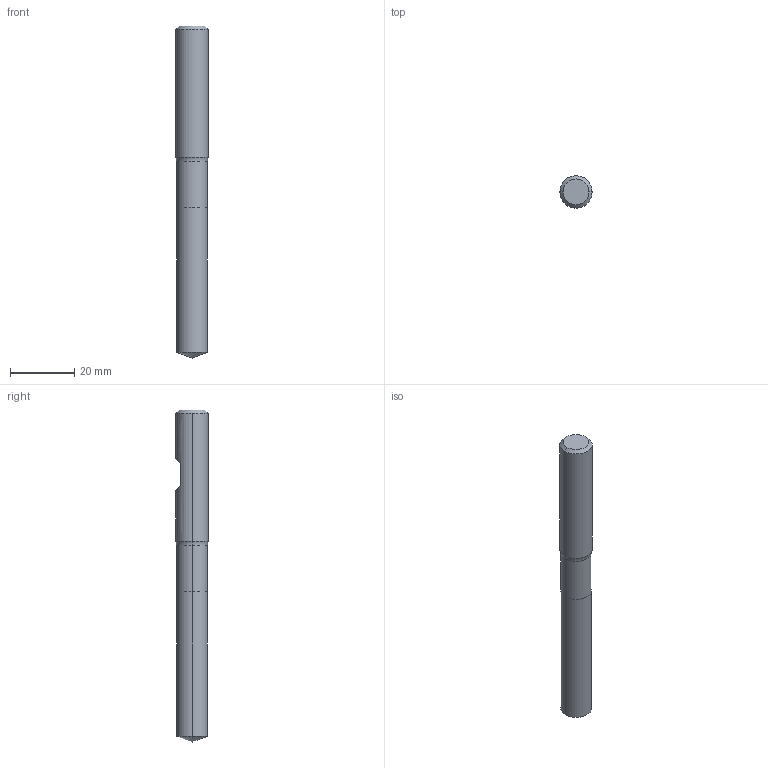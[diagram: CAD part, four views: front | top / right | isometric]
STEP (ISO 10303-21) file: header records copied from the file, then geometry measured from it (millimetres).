
FILE_DESCRIPTION (( 'STEP AP214' ), '1' );
FILE_NAME ('905.096.10_3D-model.step', '2022-02-24T18:39:03', ( '' ), ( '' ), 'SwSTEP 2.0', 'SolidWorks 2020', '' );
FILE_SCHEMA (( 'AUTOMOTIVE_DESIGN' ));
Length unit declared in the file: millimetre
Products named in the file (3): CUT-3D^Baugr199; 905.096.10_3D-model; NOCUT-3D^Baugr199
Assembly tree (2 placements, depth 2):
  905.096.10_3D-model
    CUT-3D^Baugr199
    NOCUT-3D^Baugr199
Bounding box: 10 x 10 x 103 mm (x, y, z)
Volume: 7549.2 mm3; surface area: 3386.2 mm2
Topology: 2 solids, 2 shells, 18 faces, 34 edges, 19 vertices
Faces by surface type: cylinder 6, plane 6, cone 4, torus 2
Entity records: 558 total; most frequent: DIRECTION 98, CARTESIAN_POINT 83, ORIENTED_EDGE 64, AXIS2_PLACEMENT_3D 42, EDGE_CURVE 32, VERTEX_POINT 19, EDGE_LOOP 19, FACE_OUTER_BOUND 18
